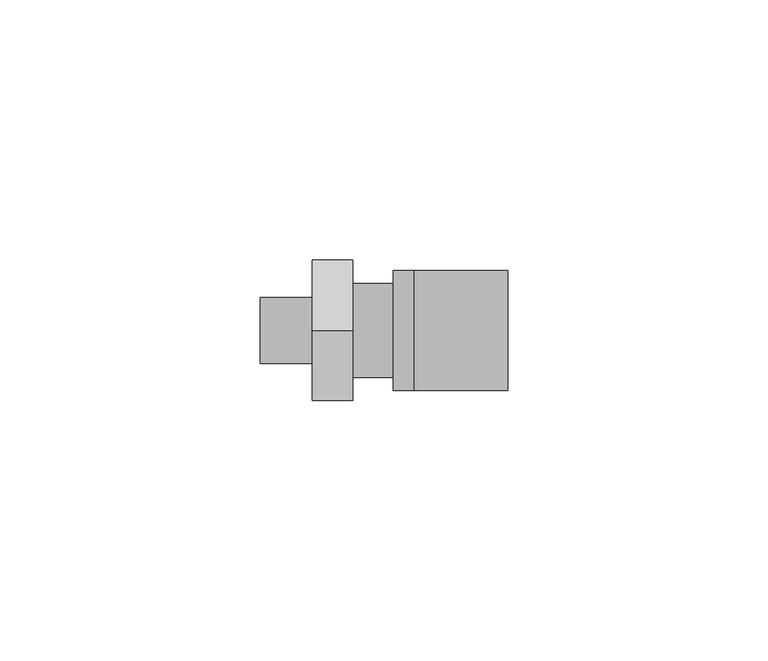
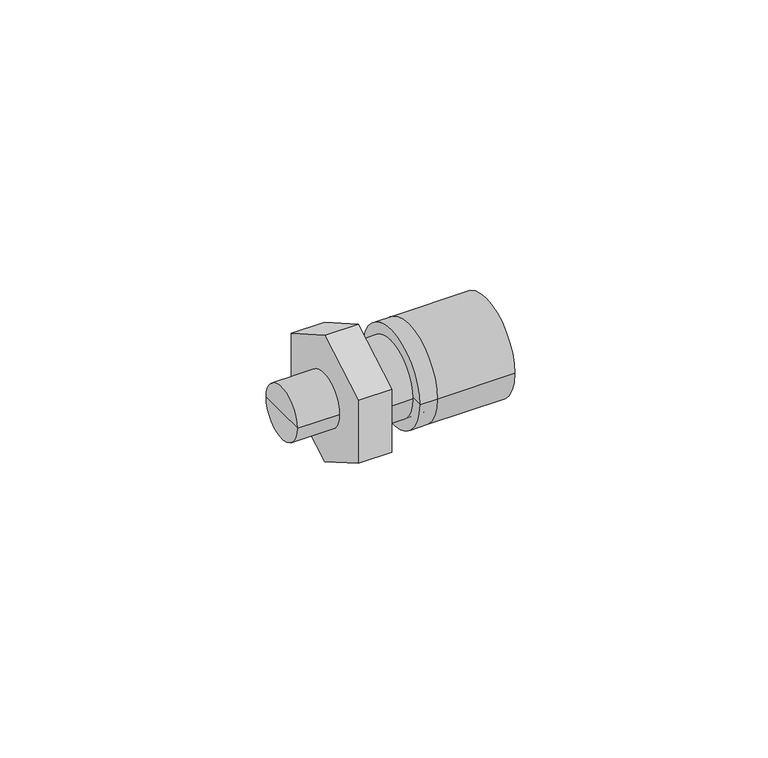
"""IFC4 building model written with IfcOpenShell, lengths in millimetres: pipe fitting geometry, KAN-therm Push 18x2 złączka z gz 1-2 : KAN-therm Push 18x2 złączka z gz 1-2."""

from ifc_helpers import new_model, si_unit, frame, origin, place, context, project, spatial, polyline, circle_curve, outline, extrude, source, transform, mapped, element, save
from ifc_brep_helpers import plane_surface, cylinder_surface, advanced_brep


def pipe_fitting_b7bc9902(model_context):
    return source(origin(), model_context, "Body", "SolidModel", [
        advanced_brep(
        [(19.5, -11.5, 0.0), (19.5, 11.5, 0.0), (19.5, 0.0, 0.0), (15.5, -11.5, 0.0), (15.5, 11.5, 0.0), (15.5, 0.0, 0.0)],
        [
            (0, 1, circle_curve(frame((19.5, 0.0, 0.0), z_axis=(1.0, 0.0, 0.0), x_axis=(0.0, 1.0, 0.0)), 11.5)),
            (1, 2),
            (2, 0),
            (1, 0, circle_curve(frame((19.5, 0.0, 0.0), z_axis=(1.0, 0.0, 0.0), x_axis=(0.0, 1.0, 0.0)), 11.5)),
            (3, 4, circle_curve(frame((15.5, 0.0, 0.0), z_axis=(1.0, 0.0, 0.0), x_axis=(0.0, 1.0, 0.0)), 11.5)),
            (4, 1),
            (0, 3),
            (4, 3, circle_curve(frame((15.5, 0.0, 0.0), z_axis=(1.0, 0.0, 0.0), x_axis=(0.0, 1.0, 0.0)), 11.5)),
            (5, 4),
            (3, 5),
        ],
        [
            plane_surface(frame((19.5, 0.0, 0.0), z_axis=(1.0, 0.0, 0.0), x_axis=(0.0, 1.0, 0.0))),
            cylinder_surface(frame((2014.5, 0.0, 0.0), z_axis=(-1.0, 0.0, 0.0), x_axis=(0.0, 1.0, 0.0)), 11.5),
            plane_surface(frame((15.5, 0.0, 0.0), z_axis=(-1.0, 0.0, 0.0), x_axis=(0.0, 1.0, 0.0))),
        ],
        [
            (0, [[1, 2, 3]]),
            (0, [[4, -3, -2]]),
            (1, [[5, 6, -1, 7]]),
            (1, [[8, -7, -4, -6]]),
            (2, [[9, -5, 10]]),
            (2, [[-10, -8, -9]]),
        ],
    ),
        advanced_brep(
        [(37.5, -11.5, 0.0), (37.5, 11.5, 0.0), (37.5, 0.0, 0.0), (19.5, -11.5, 0.0), (19.5, 11.5, 0.0), (19.5, 0.0, 0.0)],
        [
            (0, 1, circle_curve(frame((37.5, 0.0, 0.0), z_axis=(1.0, 0.0, 0.0), x_axis=(0.0, 1.0, 0.0)), 11.5)),
            (1, 2),
            (2, 0),
            (1, 0, circle_curve(frame((37.5, 0.0, 0.0), z_axis=(1.0, 0.0, 0.0), x_axis=(0.0, 1.0, 0.0)), 11.5)),
            (3, 4, circle_curve(frame((19.5, 0.0, 0.0), z_axis=(1.0, 0.0, 0.0), x_axis=(0.0, 1.0, 0.0)), 11.5)),
            (4, 1),
            (0, 3),
            (4, 3, circle_curve(frame((19.5, 0.0, 0.0), z_axis=(1.0, 0.0, 0.0), x_axis=(0.0, 1.0, 0.0)), 11.5)),
            (5, 4),
            (3, 5),
        ],
        [
            plane_surface(frame((37.5, 0.0, 0.0), z_axis=(1.0, 0.0, 0.0), x_axis=(0.0, 1.0, 0.0))),
            cylinder_surface(frame((2014.5, 0.0, 0.0), z_axis=(-1.0, 0.0, 0.0), x_axis=(0.0, 1.0, 0.0)), 11.5),
            plane_surface(frame((19.5, 0.0, 0.0), z_axis=(-1.0, 0.0, 0.0), x_axis=(0.0, 1.0, 0.0))),
        ],
        [
            (0, [[1, 2, 3]]),
            (0, [[4, -3, -2]]),
            (1, [[5, 6, -1, 7]]),
            (1, [[8, -7, -4, -6]]),
            (2, [[9, -5, 10]]),
            (2, [[-10, -8, -9]]),
        ],
    ),
        extrude(outline(polyline([(0.0, -15.5884573), (-13.5, -7.7942286), (-13.5, 7.7942286), (0.0, 15.5884573), (13.5, 7.7942286), (13.5, -7.7942286), (0.0, -15.5884573)])), frame((0.0, 0.0, 0.0), z_axis=(1.0, 0.0, 0.0), x_axis=(0.0, 1.0, 0.0)), (0.0, 0.0, 1.0), 7.75),
        advanced_brep(
        [(19.5, -9.0, 0.0), (19.5, 9.0, 0.0), (19.5, 0.0, 0.0), (7.75, -9.0, 0.0), (7.75, 9.0, 0.0), (7.75, 0.0, 0.0)],
        [
            (0, 1, circle_curve(frame((19.5, 0.0, 0.0), z_axis=(1.0, 0.0, 0.0), x_axis=(0.0, 1.0, 0.0)), 9.0)),
            (1, 2),
            (2, 0),
            (1, 0, circle_curve(frame((19.5, 0.0, 0.0), z_axis=(1.0, 0.0, 0.0), x_axis=(0.0, 1.0, 0.0)), 9.0)),
            (3, 4, circle_curve(frame((7.75, 0.0, 0.0), z_axis=(1.0, 0.0, 0.0), x_axis=(0.0, 1.0, 0.0)), 9.0)),
            (4, 1),
            (0, 3),
            (4, 3, circle_curve(frame((7.75, 0.0, 0.0), z_axis=(1.0, 0.0, 0.0), x_axis=(0.0, 1.0, 0.0)), 9.0)),
            (5, 4),
            (3, 5),
        ],
        [
            plane_surface(frame((19.5, 0.0, 0.0), z_axis=(1.0, 0.0, 0.0), x_axis=(0.0, 1.0, 0.0))),
            cylinder_surface(frame((2003.5, 0.0, 0.0), z_axis=(-1.0, 0.0, 0.0), x_axis=(0.0, 1.0, 0.0)), 9.0),
            plane_surface(frame((7.75, 0.0, 0.0), z_axis=(-1.0, 0.0, 0.0), x_axis=(0.0, 1.0, 0.0))),
        ],
        [
            (0, [[1, 2, 3]]),
            (0, [[4, -3, -2]]),
            (1, [[5, 6, -1, 7]]),
            (1, [[8, -7, -4, -6]]),
            (2, [[9, -5, 10]]),
            (2, [[-10, -8, -9]]),
        ],
    ),
        advanced_brep(
        [(0.0, -6.35, 0.0), (0.0, 6.35, 0.0), (0.0, 0.0, 0.0), (-10.0, -6.35, 0.0), (-10.0, 6.35, 0.0), (-10.0, 0.0, 0.0)],
        [
            (0, 1, circle_curve(frame((0.0, 0.0, 0.0), z_axis=(1.0, 0.0, 0.0), x_axis=(0.0, 1.0, 0.0)), 6.35)),
            (1, 2),
            (2, 0),
            (1, 0, circle_curve(frame((0.0, 0.0, 0.0), z_axis=(1.0, 0.0, 0.0), x_axis=(0.0, 1.0, 0.0)), 6.35)),
            (3, 4, circle_curve(frame((-10.0, 0.0, 0.0), z_axis=(1.0, 0.0, 0.0), x_axis=(0.0, 1.0, 0.0)), 6.35)),
            (4, 1),
            (0, 3),
            (4, 3, circle_curve(frame((-10.0, 0.0, 0.0), z_axis=(1.0, 0.0, 0.0), x_axis=(0.0, 1.0, 0.0)), 6.35)),
            (5, 4),
            (3, 5),
        ],
        [
            plane_surface(frame((0.0, 0.0, 0.0), z_axis=(1.0, 0.0, 0.0), x_axis=(0.0, 1.0, 0.0))),
            cylinder_surface(frame((2003.5, 0.0, 0.0), z_axis=(-1.0, 0.0, 0.0), x_axis=(0.0, 1.0, 0.0)), 6.35),
            plane_surface(frame((-10.0, 0.0, 0.0), z_axis=(-1.0, 0.0, 0.0), x_axis=(0.0, 1.0, 0.0))),
        ],
        [
            (0, [[1, 2, 3]]),
            (0, [[4, -3, -2]]),
            (1, [[5, 6, -1, 7]]),
            (1, [[8, -7, -4, -6]]),
            (2, [[9, -5, 10]]),
            (2, [[-10, -8, -9]]),
        ],
    ),
    ])


if __name__ == "__main__":
    model = new_model("IFC4")
    model_context = context("Model", 3, world=origin())
    ifc_project = project(units=[si_unit("LENGTHUNIT", "METRE", prefix="MILLI")], contexts=[model_context])
    site = spatial("IfcSite", under=ifc_project)
    building = spatial("IfcBuilding", under=site)
    placement = place(None, origin())
    pipe_fitting_shape = pipe_fitting_b7bc9902(model_context)
    element("IfcPipeFitting", 1, ObjectType="KAN-therm Push 18x2 złączka z gz 1-2 : KAN-therm Push 18x2 złączka z gz 1-2", at=placement, inside=building, context=model_context, shape_type="MappedRepresentation", body=[
        mapped(pipe_fitting_shape, transform((0.0, 0.0, 0.0), x_axis=(1.0, 0.0, 0.0), y_axis=(0.0, 1.0, 0.0), z_axis=(0.0, 0.0, 1.0))),
    ])
    save(model, "model.ifc")
